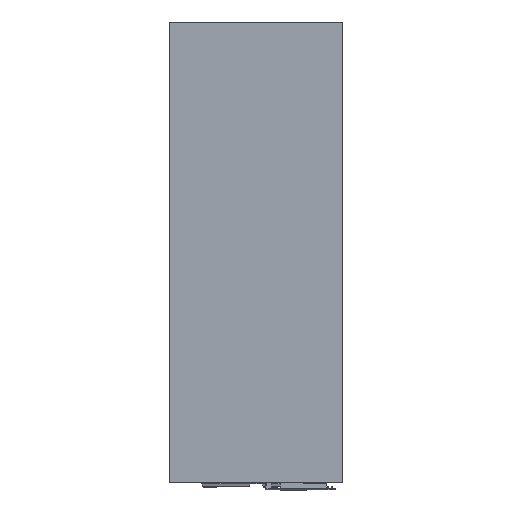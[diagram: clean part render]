
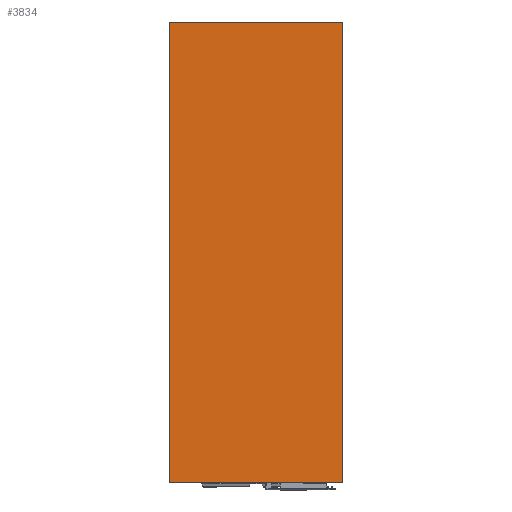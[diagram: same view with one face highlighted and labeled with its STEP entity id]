
A CAD part, left-side view. The second image highlights one B-rep face of the part: STEP entity #3834.
In plain terms, the highlighted planar face has unit normal (-1, 0, 0).
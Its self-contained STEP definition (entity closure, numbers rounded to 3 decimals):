
#276 = VECTOR ( 'NONE', #953, 1000. ) ;
#443 = CARTESIAN_POINT ( 'NONE',  ( 2.5, 155.9, -490. ) ) ;
#501 = LINE ( 'NONE', #443, #1781 ) ;
#613 = VERTEX_POINT ( 'NONE', #2630 ) ;
#886 = CARTESIAN_POINT ( 'NONE',  ( 2.5, 156., -490. ) ) ;
#953 = DIRECTION ( 'NONE',  ( 0., 1., 0. ) ) ;
#1038 = EDGE_CURVE ( 'NONE', #2731, #2807, #2784, .T. ) ;
#1164 = EDGE_CURVE ( 'NONE', #1509, #613, #2968, .T. ) ;
#1319 = DIRECTION ( 'NONE',  ( 0., -1., 0. ) ) ;
#1509 = VERTEX_POINT ( 'NONE', #1769 ) ;
#1769 = CARTESIAN_POINT ( 'NONE',  ( 2.5, -29., 0. ) ) ;
#1781 = VECTOR ( 'NONE', #1319, 1000. ) ;
#1782 = VECTOR ( 'NONE', #2173, 1000. ) ;
#1878 = LINE ( 'NONE', #4105, #276 ) ;
#1885 = ORIENTED_EDGE ( 'NONE', *, *, #2760, .T. ) ;
#1921 = EDGE_CURVE ( 'NONE', #2807, #613, #501, .T. ) ;
#2029 = CARTESIAN_POINT ( 'NONE',  ( 2.5, -29., 0. ) ) ;
#2080 = PLANE ( 'NONE',  #3795 ) ;
#2173 = DIRECTION ( 'NONE',  ( 0., 0., -1. ) ) ;
#2435 = CARTESIAN_POINT ( 'NONE',  ( 2.5, -29., 0. ) ) ;
#2466 = DIRECTION ( 'NONE',  ( 1., 0., 0. ) ) ;
#2470 = DIRECTION ( 'NONE',  ( 0., 0., 1. ) ) ;
#2630 = CARTESIAN_POINT ( 'NONE',  ( 2.5, -29., -490. ) ) ;
#2731 = VERTEX_POINT ( 'NONE', #4052 ) ;
#2760 = EDGE_CURVE ( 'NONE', #1509, #2731, #1878, .T. ) ;
#2772 = EDGE_LOOP ( 'NONE', ( #3247, #1885, #2939, #3490 ) ) ;
#2784 = LINE ( 'NONE', #3757, #3790 ) ;
#2807 = VERTEX_POINT ( 'NONE', #886 ) ;
#2939 = ORIENTED_EDGE ( 'NONE', *, *, #1038, .T. ) ;
#2968 = LINE ( 'NONE', #2029, #1782 ) ;
#3201 = FACE_OUTER_BOUND ( 'NONE', #2772, .T. ) ;
#3247 = ORIENTED_EDGE ( 'NONE', *, *, #1164, .F. ) ;
#3490 = ORIENTED_EDGE ( 'NONE', *, *, #1921, .T. ) ;
#3757 = CARTESIAN_POINT ( 'NONE',  ( 2.5, 156., 0. ) ) ;
#3790 = VECTOR ( 'NONE', #3845, 1000. ) ;
#3795 = AXIS2_PLACEMENT_3D ( 'NONE', #2435, #2466, #2470 ) ;
#3834 = ADVANCED_FACE ( 'NONE', ( #3201 ), #2080, .F. ) ;
#3845 = DIRECTION ( 'NONE',  ( 0., 0., -1. ) ) ;
#4052 = CARTESIAN_POINT ( 'NONE',  ( 2.5, 156., 0. ) ) ;
#4105 = CARTESIAN_POINT ( 'NONE',  ( 2.5, -29., 0. ) ) ;
